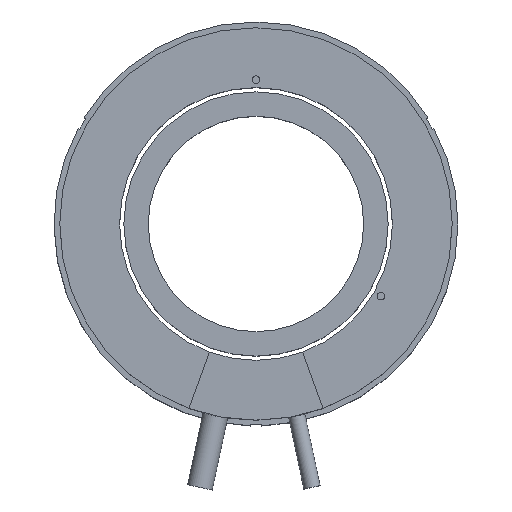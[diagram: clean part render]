
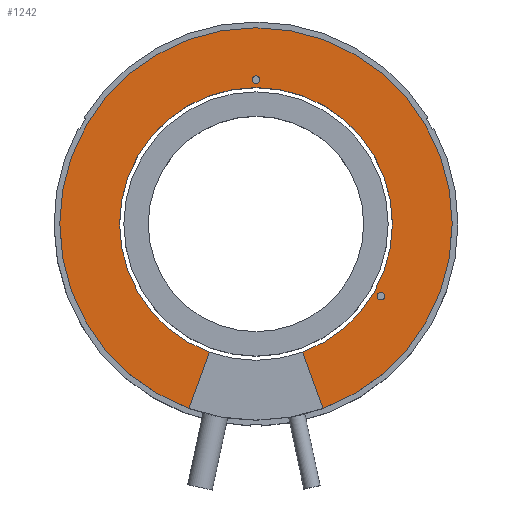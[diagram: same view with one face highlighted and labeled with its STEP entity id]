
A CAD part, top view. The second image highlights one B-rep face of the part: STEP entity #1242.
In plain terms, the highlighted planar face has unit normal (0, 0, 1).
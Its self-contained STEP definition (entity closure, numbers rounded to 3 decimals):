
#12 = ORIENTED_EDGE ( 'NONE', *, *, #1355, .F. ) ;
#20 = CIRCLE ( 'NONE', #336, 1. ) ;
#51 = ORIENTED_EDGE ( 'NONE', *, *, #1104, .F. ) ;
#56 = DIRECTION ( 'NONE',  ( 1., 0., 0. ) ) ;
#57 = VECTOR ( 'NONE', #1084, 1000. ) ;
#84 = CARTESIAN_POINT ( 'NONE',  ( 0., 37.5, 34. ) ) ;
#90 = CIRCLE ( 'NONE', #531, 1. ) ;
#92 = AXIS2_PLACEMENT_3D ( 'NONE', #148, #719, #378 ) ;
#96 = VERTEX_POINT ( 'NONE', #1054 ) ;
#113 = DIRECTION ( 'NONE',  ( 0., 0., 1. ) ) ;
#122 = DIRECTION ( 'NONE',  ( 1., 0., 0. ) ) ;
#139 = DIRECTION ( 'NONE',  ( 1., 0., 0. ) ) ;
#140 = CIRCLE ( 'NONE', #1108, 35.45 ) ;
#148 = CARTESIAN_POINT ( 'NONE',  ( 0., 0., 34. ) ) ;
#182 = VERTEX_POINT ( 'NONE', #1329 ) ;
#189 = ORIENTED_EDGE ( 'NONE', *, *, #308, .T. ) ;
#190 = CARTESIAN_POINT ( 'NONE',  ( 32.476, -18.75, 34. ) ) ;
#226 = CARTESIAN_POINT ( 'NONE',  ( 35.45, 0., 34. ) ) ;
#227 = ORIENTED_EDGE ( 'NONE', *, *, #1019, .F. ) ;
#253 = DIRECTION ( 'NONE',  ( 0., 0., 1. ) ) ;
#280 = CIRCLE ( 'NONE', #1125, 1. ) ;
#293 = ORIENTED_EDGE ( 'NONE', *, *, #317, .F. ) ;
#308 = EDGE_CURVE ( 'NONE', #395, #379, #1275, .T. ) ;
#309 = VERTEX_POINT ( 'NONE', #655 ) ;
#317 = EDGE_CURVE ( 'NONE', #182, #309, #280, .T. ) ;
#335 = CARTESIAN_POINT ( 'NONE',  ( 32.476, -18.75, 34. ) ) ;
#336 = AXIS2_PLACEMENT_3D ( 'NONE', #190, #631, #646 ) ;
#347 = FACE_OUTER_BOUND ( 'NONE', #1277, .T. ) ;
#357 = VERTEX_POINT ( 'NONE', #914 ) ;
#371 = LINE ( 'NONE', #1155, #834 ) ;
#378 = DIRECTION ( 'NONE',  ( 1., 0., 0. ) ) ;
#379 = VERTEX_POINT ( 'NONE', #1408 ) ;
#395 = VERTEX_POINT ( 'NONE', #948 ) ;
#406 = CIRCLE ( 'NONE', #1250, 1. ) ;
#410 = CIRCLE ( 'NONE', #1397, 51. ) ;
#412 = ORIENTED_EDGE ( 'NONE', *, *, #1417, .F. ) ;
#419 = ORIENTED_EDGE ( 'NONE', *, *, #1114, .F. ) ;
#420 = EDGE_CURVE ( 'NONE', #309, #182, #406, .T. ) ;
#432 = DIRECTION ( 'NONE',  ( 0., 0., 1. ) ) ;
#450 = ORIENTED_EDGE ( 'NONE', *, *, #795, .F. ) ;
#455 = CARTESIAN_POINT ( 'NONE',  ( 51., 0., 34. ) ) ;
#461 = AXIS2_PLACEMENT_3D ( 'NONE', #1174, #253, #139 ) ;
#473 = DIRECTION ( 'NONE',  ( 0., 0., 1. ) ) ;
#477 = PLANE ( 'NONE',  #461 ) ;
#484 = CIRCLE ( 'NONE', #92, 51. ) ;
#490 = DIRECTION ( 'NONE',  ( 0., 0., 1. ) ) ;
#524 = DIRECTION ( 'NONE',  ( 1., 0., 0. ) ) ;
#531 = AXIS2_PLACEMENT_3D ( 'NONE', #335, #113, #804 ) ;
#547 = DIRECTION ( 'NONE',  ( 0., 0., 1. ) ) ;
#573 = AXIS2_PLACEMENT_3D ( 'NONE', #639, #1347, #524 ) ;
#631 = DIRECTION ( 'NONE',  ( 0., 0., 1. ) ) ;
#639 = CARTESIAN_POINT ( 'NONE',  ( 0., 0., 34. ) ) ;
#646 = DIRECTION ( 'NONE',  ( 1., 0., 0. ) ) ;
#655 = CARTESIAN_POINT ( 'NONE',  ( -1., 37.5, 34. ) ) ;
#699 = CARTESIAN_POINT ( 'NONE',  ( 0., 0., 34. ) ) ;
#719 = DIRECTION ( 'NONE',  ( 0., 0., 1. ) ) ;
#723 = CARTESIAN_POINT ( 'NONE',  ( 12.125, -33.312, 34. ) ) ;
#744 = CARTESIAN_POINT ( 'NONE',  ( 0., 0., 34. ) ) ;
#759 = ORIENTED_EDGE ( 'NONE', *, *, #771, .F. ) ;
#771 = EDGE_CURVE ( 'NONE', #816, #917, #90, .T. ) ;
#795 = EDGE_CURVE ( 'NONE', #883, #1193, #140, .T. ) ;
#804 = DIRECTION ( 'NONE',  ( 1., 0., 0. ) ) ;
#810 = DIRECTION ( 'NONE',  ( 0., 0., 1. ) ) ;
#816 = VERTEX_POINT ( 'NONE', #1257 ) ;
#834 = VECTOR ( 'NONE', #944, 1000. ) ;
#839 = VERTEX_POINT ( 'NONE', #1391 ) ;
#840 = CARTESIAN_POINT ( 'NONE',  ( 31.476, -18.75, 34. ) ) ;
#851 = AXIS2_PLACEMENT_3D ( 'NONE', #888, #432, #881 ) ;
#875 = EDGE_CURVE ( 'NONE', #1018, #395, #410, .T. ) ;
#881 = DIRECTION ( 'NONE',  ( 1., 0., 0. ) ) ;
#883 = VERTEX_POINT ( 'NONE', #723 ) ;
#888 = CARTESIAN_POINT ( 'NONE',  ( 0., 0., 34. ) ) ;
#911 = CIRCLE ( 'NONE', #1061, 35.45 ) ;
#914 = CARTESIAN_POINT ( 'NONE',  ( -12.125, -33.312, 34. ) ) ;
#917 = VERTEX_POINT ( 'NONE', #840 ) ;
#944 = DIRECTION ( 'NONE',  ( -0.342, -0.94, 0. ) ) ;
#948 = CARTESIAN_POINT ( 'NONE',  ( -51., 0., 34. ) ) ;
#978 = EDGE_LOOP ( 'NONE', ( #759, #51 ) ) ;
#985 = CIRCLE ( 'NONE', #573, 35.45 ) ;
#1018 = VERTEX_POINT ( 'NONE', #455 ) ;
#1019 = EDGE_CURVE ( 'NONE', #1193, #96, #985, .T. ) ;
#1054 = CARTESIAN_POINT ( 'NONE',  ( -35.45, 0., 34. ) ) ;
#1061 = AXIS2_PLACEMENT_3D ( 'NONE', #744, #1440, #56 ) ;
#1081 = DIRECTION ( 'NONE',  ( 1., 0., 0. ) ) ;
#1084 = DIRECTION ( 'NONE',  ( -0.342, 0.94, 0. ) ) ;
#1104 = EDGE_CURVE ( 'NONE', #917, #816, #20, .T. ) ;
#1108 = AXIS2_PLACEMENT_3D ( 'NONE', #1159, #810, #1385 ) ;
#1114 = EDGE_CURVE ( 'NONE', #357, #379, #371, .T. ) ;
#1125 = AXIS2_PLACEMENT_3D ( 'NONE', #84, #547, #122 ) ;
#1155 = CARTESIAN_POINT ( 'NONE',  ( -12.125, -33.312, 34. ) ) ;
#1159 = CARTESIAN_POINT ( 'NONE',  ( 0., 0., 34. ) ) ;
#1162 = FACE_BOUND ( 'NONE', #978, .T. ) ;
#1174 = CARTESIAN_POINT ( 'NONE',  ( 35.45, 0., 34. ) ) ;
#1189 = CARTESIAN_POINT ( 'NONE',  ( 0., 37.5, 34. ) ) ;
#1193 = VERTEX_POINT ( 'NONE', #226 ) ;
#1215 = CARTESIAN_POINT ( 'NONE',  ( 12.125, -33.312, 34. ) ) ;
#1223 = ORIENTED_EDGE ( 'NONE', *, *, #420, .F. ) ;
#1242 = ADVANCED_FACE ( 'NONE', ( #1293, #1162, #347 ), #477, .T. ) ;
#1250 = AXIS2_PLACEMENT_3D ( 'NONE', #1189, #490, #1081 ) ;
#1257 = CARTESIAN_POINT ( 'NONE',  ( 33.476, -18.75, 34. ) ) ;
#1274 = EDGE_CURVE ( 'NONE', #839, #1018, #484, .T. ) ;
#1275 = CIRCLE ( 'NONE', #851, 51. ) ;
#1277 = EDGE_LOOP ( 'NONE', ( #412, #1398, #1286, #189, #419, #12, #227, #450 ) ) ;
#1286 = ORIENTED_EDGE ( 'NONE', *, *, #875, .T. ) ;
#1293 = FACE_BOUND ( 'NONE', #1354, .T. ) ;
#1306 = LINE ( 'NONE', #1215, #57 ) ;
#1329 = CARTESIAN_POINT ( 'NONE',  ( 1., 37.5, 34. ) ) ;
#1347 = DIRECTION ( 'NONE',  ( 0., 0., 1. ) ) ;
#1354 = EDGE_LOOP ( 'NONE', ( #293, #1223 ) ) ;
#1355 = EDGE_CURVE ( 'NONE', #96, #357, #911, .T. ) ;
#1385 = DIRECTION ( 'NONE',  ( 1., 0., 0. ) ) ;
#1391 = CARTESIAN_POINT ( 'NONE',  ( 17.443, -47.924, 34. ) ) ;
#1397 = AXIS2_PLACEMENT_3D ( 'NONE', #699, #473, #1400 ) ;
#1398 = ORIENTED_EDGE ( 'NONE', *, *, #1274, .T. ) ;
#1400 = DIRECTION ( 'NONE',  ( 1., 0., 0. ) ) ;
#1408 = CARTESIAN_POINT ( 'NONE',  ( -17.443, -47.924, 34. ) ) ;
#1417 = EDGE_CURVE ( 'NONE', #839, #883, #1306, .T. ) ;
#1440 = DIRECTION ( 'NONE',  ( 0., 0., 1. ) ) ;
